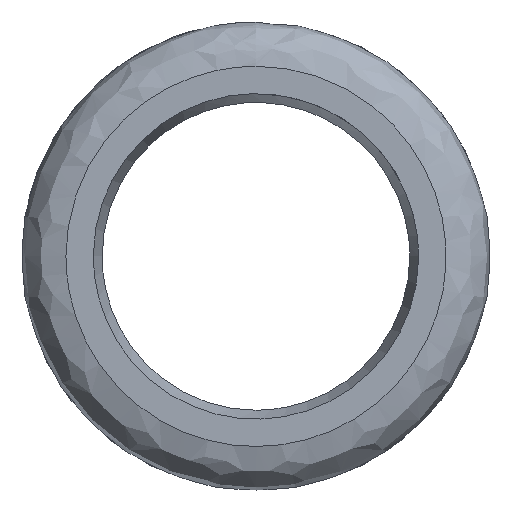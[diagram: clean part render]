
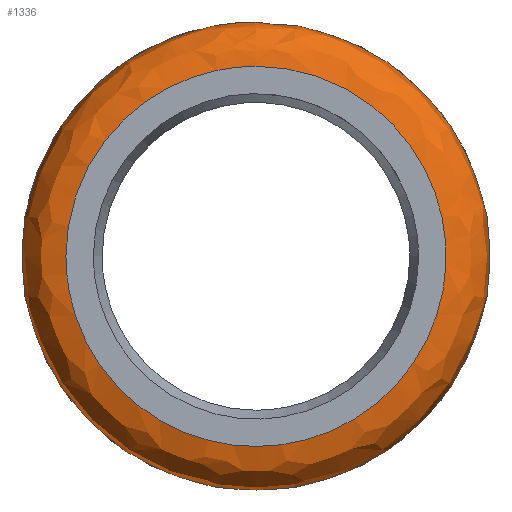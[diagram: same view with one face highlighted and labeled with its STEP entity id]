
A CAD part, left-side view. The second image highlights one B-rep face of the part: STEP entity #1336.
In plain terms, the highlighted free-form (B-spline) face has degree [2, 2] with [5, 9] control points.
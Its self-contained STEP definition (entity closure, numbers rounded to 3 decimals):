
#1290 = EDGE_CURVE('',#1291,#1293,#1295,.T.);
#1291 = VERTEX_POINT('',#1292);
#1292 = CARTESIAN_POINT('',(0.,12.85,0.));
#1293 = VERTEX_POINT('',#1294);
#1294 = CARTESIAN_POINT('',(0.,0.,12.85));
#1295 = ( BOUNDED_CURVE() B_SPLINE_CURVE(2,(#1296,#1297,#1298),
.UNSPECIFIED.,.F.,.F.) B_SPLINE_CURVE_WITH_KNOTS((3,3),(0.,
1.571),.PIECEWISE_BEZIER_KNOTS.) CURVE() 
GEOMETRIC_REPRESENTATION_ITEM() RATIONAL_B_SPLINE_CURVE((1.,
0.707,1.)) REPRESENTATION_ITEM('') );
#1296 = CARTESIAN_POINT('',(0.,12.85,0.));
#1297 = CARTESIAN_POINT('',(0.,12.85,12.85));
#1298 = CARTESIAN_POINT('',(0.,0.,12.85));
#1300 = EDGE_CURVE('',#1293,#1291,#1301,.T.);
#1301 = ( BOUNDED_CURVE() B_SPLINE_CURVE(2,(#1302,#1303,#1304,#1305,
#1306,#1307,#1308),.UNSPECIFIED.,.F.,.F.) B_SPLINE_CURVE_WITH_KNOTS((3,2
    ,2,3),(1.571,3.142,4.712,6.283),
.UNSPECIFIED.) CURVE() GEOMETRIC_REPRESENTATION_ITEM() 
RATIONAL_B_SPLINE_CURVE((1.,0.707,1.,0.707,1.,
0.707,1.)) REPRESENTATION_ITEM('') );
#1302 = CARTESIAN_POINT('',(0.,0.,12.85));
#1303 = CARTESIAN_POINT('',(0.,-12.85,12.85));
#1304 = CARTESIAN_POINT('',(0.,-12.85,0.));
#1305 = CARTESIAN_POINT('',(0.,-12.85,-12.85));
#1306 = CARTESIAN_POINT('',(0.,0.,-12.85));
#1307 = CARTESIAN_POINT('',(0.,12.85,-12.85));
#1308 = CARTESIAN_POINT('',(0.,12.85,0.));
#1336 = ADVANCED_FACE('',(#1337),#1376,.T.);
#1337 = FACE_BOUND('',#1338,.T.);
#1338 = EDGE_LOOP('',(#1339,#1349,#1359,#1365,#1373,#1374,#1375));
#1339 = ORIENTED_EDGE('',*,*,#1340,.F.);
#1340 = EDGE_CURVE('',#1341,#1343,#1345,.T.);
#1341 = VERTEX_POINT('',#1342);
#1342 = CARTESIAN_POINT('',(5.121,14.971,0.));
#1343 = VERTEX_POINT('',#1344);
#1344 = CARTESIAN_POINT('',(5.121,0.,14.971));
#1345 = ( BOUNDED_CURVE() B_SPLINE_CURVE(2,(#1346,#1347,#1348),
.UNSPECIFIED.,.F.,.F.) B_SPLINE_CURVE_WITH_KNOTS((3,3),(0.,
1.571),.PIECEWISE_BEZIER_KNOTS.) CURVE() 
GEOMETRIC_REPRESENTATION_ITEM() RATIONAL_B_SPLINE_CURVE((1.,
0.707,1.)) REPRESENTATION_ITEM('') );
#1346 = CARTESIAN_POINT('',(5.121,14.971,0.));
#1347 = CARTESIAN_POINT('',(5.121,14.971,14.971)
  );
#1348 = CARTESIAN_POINT('',(5.121,0.,
    14.971));
#1349 = ORIENTED_EDGE('',*,*,#1350,.F.);
#1350 = EDGE_CURVE('',#1351,#1341,#1353,.T.);
#1351 = VERTEX_POINT('',#1352);
#1352 = CARTESIAN_POINT('',(5.121,-14.971,0.));
#1353 = ( BOUNDED_CURVE() B_SPLINE_CURVE(2,(#1354,#1355,#1356,#1357,
#1358),.UNSPECIFIED.,.F.,.F.) B_SPLINE_CURVE_WITH_KNOTS((3,2,3),(
    3.142,4.712,6.283),
.PIECEWISE_BEZIER_KNOTS.) CURVE() GEOMETRIC_REPRESENTATION_ITEM() 
RATIONAL_B_SPLINE_CURVE((1.,0.707,1.,0.707,1.)) 
REPRESENTATION_ITEM('') );
#1354 = CARTESIAN_POINT('',(5.121,-14.971,
    0.));
#1355 = CARTESIAN_POINT('',(5.121,-14.971,
    -14.971));
#1356 = CARTESIAN_POINT('',(5.121,0.,
    -14.971));
#1357 = CARTESIAN_POINT('',(5.121,14.971,-14.971
    ));
#1358 = CARTESIAN_POINT('',(5.121,14.971,
    0.));
#1359 = ORIENTED_EDGE('',*,*,#1360,.F.);
#1360 = EDGE_CURVE('',#1343,#1351,#1361,.T.);
#1361 = ( BOUNDED_CURVE() B_SPLINE_CURVE(2,(#1362,#1363,#1364),
.UNSPECIFIED.,.F.,.F.) B_SPLINE_CURVE_WITH_KNOTS((3,3),(1.571,
3.142),.PIECEWISE_BEZIER_KNOTS.) CURVE() 
GEOMETRIC_REPRESENTATION_ITEM() RATIONAL_B_SPLINE_CURVE((1.,
0.707,1.)) REPRESENTATION_ITEM('') );
#1362 = CARTESIAN_POINT('',(5.121,0.,
    14.971));
#1363 = CARTESIAN_POINT('',(5.121,-14.971,14.971
    ));
#1364 = CARTESIAN_POINT('',(5.121,-14.971,
    0.));
#1365 = ORIENTED_EDGE('',*,*,#1366,.T.);
#1366 = EDGE_CURVE('',#1343,#1293,#1367,.T.);
#1367 = ( BOUNDED_CURVE() B_SPLINE_CURVE(2,(#1368,#1369,#1370,#1371,
#1372),.UNSPECIFIED.,.F.,.F.) B_SPLINE_CURVE_WITH_KNOTS((3,2,3),(
-0.785,0.393,1.571),.UNSPECIFIED.) CURVE() 
GEOMETRIC_REPRESENTATION_ITEM() RATIONAL_B_SPLINE_CURVE((1.,
0.831,1.,0.831,1.)) REPRESENTATION_ITEM('') );
#1368 = CARTESIAN_POINT('',(5.121,0.,14.971));
#1369 = CARTESIAN_POINT('',(3.704,0.,16.389));
#1370 = CARTESIAN_POINT('',(1.852,0.,15.622));
#1371 = CARTESIAN_POINT('',(0.,0.,14.855));
#1372 = CARTESIAN_POINT('',(0.,0.,12.85));
#1373 = ORIENTED_EDGE('',*,*,#1300,.T.);
#1374 = ORIENTED_EDGE('',*,*,#1290,.T.);
#1375 = ORIENTED_EDGE('',*,*,#1366,.F.);
#1376 = ( BOUNDED_SURFACE() B_SPLINE_SURFACE(2,2,(
    (#1377,#1378,#1379,#1380,#1381,#1382,#1383,#1384,#1385)
    ,(#1386,#1387,#1388,#1389,#1390,#1391,#1392,#1393,#1394)
    ,(#1395,#1396,#1397,#1398,#1399,#1400,#1401,#1402,#1403)
    ,(#1404,#1405,#1406,#1407,#1408,#1409,#1410,#1411,#1412)
    ,(#1413,#1414,#1415,#1416,#1417,#1418,#1419,#1420,#1421
)),.UNSPECIFIED.,.F.,.T.,.F.) B_SPLINE_SURFACE_WITH_KNOTS((3,2,3),(1,2,2
    ,2,2,2,1),(-1.571,-0.393,0.785),(
    -4.712,-3.142,-1.571,0.,1.571,
    3.142,4.712),.UNSPECIFIED.) 
GEOMETRIC_REPRESENTATION_ITEM() RATIONAL_B_SPLINE_SURFACE((
    (1.,0.707,1.,0.707,1.,0.707,1.
      ,0.707,1.)
    ,(0.831,0.588,0.831,0.588
      ,0.831,0.588,0.831,0.588
      ,0.831)
    ,(1.,0.707,1.,0.707,1.,0.707,1.
      ,0.707,1.)
    ,(0.831,0.588,0.831,0.588
      ,0.831,0.588,0.831,0.588
      ,0.831)
    ,(1.,0.707,1.,0.707,1.,0.707,1.
,0.707,1.))) REPRESENTATION_ITEM('') SURFACE() );
#1377 = CARTESIAN_POINT('',(5.121,0.,14.971));
#1378 = CARTESIAN_POINT('',(5.121,-14.971,14.971
    ));
#1379 = CARTESIAN_POINT('',(5.121,-14.971,0.));
#1380 = CARTESIAN_POINT('',(5.121,-14.971,
    -14.971));
#1381 = CARTESIAN_POINT('',(5.121,0.,-14.971));
#1382 = CARTESIAN_POINT('',(5.121,14.971,-14.971
    ));
#1383 = CARTESIAN_POINT('',(5.121,14.971,0.));
#1384 = CARTESIAN_POINT('',(5.121,14.971,14.971)
  );
#1385 = CARTESIAN_POINT('',(5.121,0.,14.971));
#1386 = CARTESIAN_POINT('',(3.704,0.,16.389));
#1387 = CARTESIAN_POINT('',(3.704,-16.389,
    16.389));
#1388 = CARTESIAN_POINT('',(3.704,-16.389,0.));
#1389 = CARTESIAN_POINT('',(3.704,-16.389,
    -16.389));
#1390 = CARTESIAN_POINT('',(3.704,0.,-16.389));
#1391 = CARTESIAN_POINT('',(3.704,16.389,
    -16.389));
#1392 = CARTESIAN_POINT('',(3.704,16.389,0.));
#1393 = CARTESIAN_POINT('',(3.704,16.389,16.389
    ));
#1394 = CARTESIAN_POINT('',(3.704,0.,16.389));
#1395 = CARTESIAN_POINT('',(1.852,0.,15.622));
#1396 = CARTESIAN_POINT('',(1.852,-15.622,
    15.622));
#1397 = CARTESIAN_POINT('',(1.852,-15.622,0.));
#1398 = CARTESIAN_POINT('',(1.852,-15.622,
    -15.622));
#1399 = CARTESIAN_POINT('',(1.852,0.,-15.622));
#1400 = CARTESIAN_POINT('',(1.852,15.622,
    -15.622));
#1401 = CARTESIAN_POINT('',(1.852,15.622,0.));
#1402 = CARTESIAN_POINT('',(1.852,15.622,
    15.622));
#1403 = CARTESIAN_POINT('',(1.852,0.,15.622));
#1404 = CARTESIAN_POINT('',(0.,0.,14.855));
#1405 = CARTESIAN_POINT('',(0.,-14.855,
    14.855));
#1406 = CARTESIAN_POINT('',(0.,-14.855,0.));
#1407 = CARTESIAN_POINT('',(0.,-14.855,
    -14.855));
#1408 = CARTESIAN_POINT('',(0.,0.,-14.855));
#1409 = CARTESIAN_POINT('',(0.,14.855,
    -14.855));
#1410 = CARTESIAN_POINT('',(0.,14.855,0.));
#1411 = CARTESIAN_POINT('',(0.,14.855,
    14.855));
#1412 = CARTESIAN_POINT('',(0.,0.,14.855));
#1413 = CARTESIAN_POINT('',(0.,0.,12.85));
#1414 = CARTESIAN_POINT('',(0.,-12.85,12.85));
#1415 = CARTESIAN_POINT('',(0.,-12.85,0.));
#1416 = CARTESIAN_POINT('',(0.,-12.85,-12.85));
#1417 = CARTESIAN_POINT('',(0.,0.,-12.85));
#1418 = CARTESIAN_POINT('',(0.,12.85,-12.85));
#1419 = CARTESIAN_POINT('',(0.,12.85,0.));
#1420 = CARTESIAN_POINT('',(0.,12.85,12.85));
#1421 = CARTESIAN_POINT('',(0.,0.,12.85));
